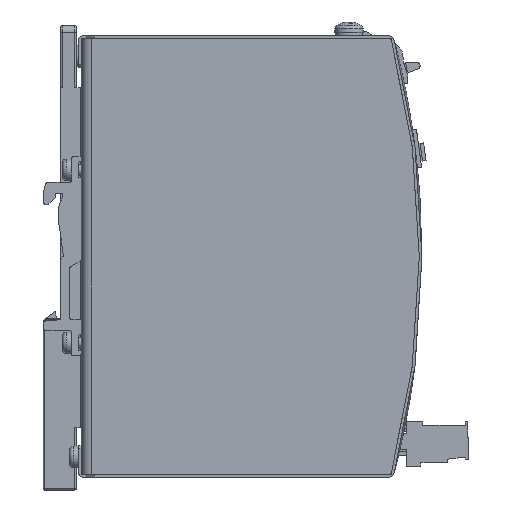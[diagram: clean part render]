
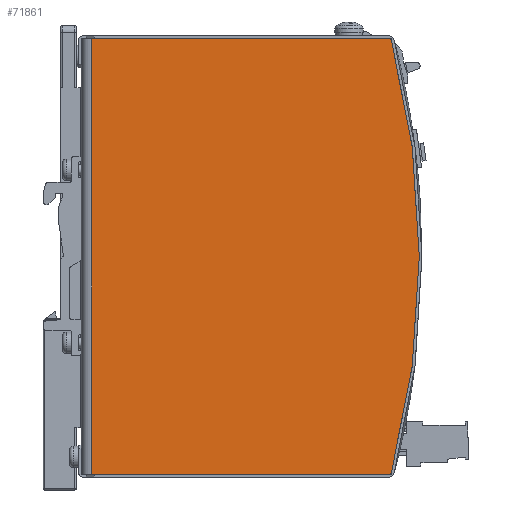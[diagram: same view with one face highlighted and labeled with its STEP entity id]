
A CAD part, front view. The second image highlights one B-rep face of the part: STEP entity #71861.
In plain terms, the highlighted planar face has unit normal (0, -1, 0).
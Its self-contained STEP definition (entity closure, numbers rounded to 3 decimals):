
#3651=PLANE('',#76069);
#6507=FACE_OUTER_BOUND('',#10312,.T.);
#10312=EDGE_LOOP('',(#50262,#50263,#50264,#50265));
#15113=LINE('',#97335,#23361);
#15120=LINE('',#97359,#23368);
#15122=LINE('',#97364,#23370);
#23361=VECTOR('',#80432,10.);
#23368=VECTOR('',#80459,10.);
#23370=VECTOR('',#80465,10.);
#31587=CIRCLE('',#76048,240.);
#32435=VERTEX_POINT('',#97297);
#32436=VERTEX_POINT('',#97298);
#32450=VERTEX_POINT('',#97334);
#32457=VERTEX_POINT('',#97358);
#39528=EDGE_CURVE('',#32435,#32436,#31587,.T.);
#39546=EDGE_CURVE('',#32435,#32450,#15113,.T.);
#39558=EDGE_CURVE('',#32457,#32450,#15120,.T.);
#39561=EDGE_CURVE('',#32436,#32457,#15122,.T.);
#50262=ORIENTED_EDGE('',*,*,#39528,.T.);
#50263=ORIENTED_EDGE('',*,*,#39561,.T.);
#50264=ORIENTED_EDGE('',*,*,#39558,.T.);
#50265=ORIENTED_EDGE('',*,*,#39546,.F.);
#71861=ADVANCED_FACE('',(#6507),#3651,.T.);
#76048=AXIS2_PLACEMENT_3D('',#97299,#80400,#80401);
#76069=AXIS2_PLACEMENT_3D('',#97363,#80463,#80464);
#80400=DIRECTION('center_axis',(0.,-1.,0.));
#80401=DIRECTION('ref_axis',(-0.967,0.,-0.255));
#80432=DIRECTION('',(-1.,0.,0.));
#80459=DIRECTION('',(0.,0.,-1.));
#80463=DIRECTION('center_axis',(0.,-1.,0.));
#80464=DIRECTION('ref_axis',(0.,0.,-1.));
#80465=DIRECTION('',(-1.,0.,0.));
#97297=CARTESIAN_POINT('',(87.079,-32.,-61.15));
#97298=CARTESIAN_POINT('',(87.079,-32.,61.15));
#97299=CARTESIAN_POINT('Origin',(-145.,-32.,0.));
#97334=CARTESIAN_POINT('',(3.,-32.,-61.15));
#97335=CARTESIAN_POINT('',(130.,-32.,-61.15));
#97358=CARTESIAN_POINT('',(3.,-32.,61.15));
#97359=CARTESIAN_POINT('',(3.,-32.,-61.15));
#97363=CARTESIAN_POINT('Origin',(130.,-32.,-61.15));
#97364=CARTESIAN_POINT('',(130.,-32.,61.15));
